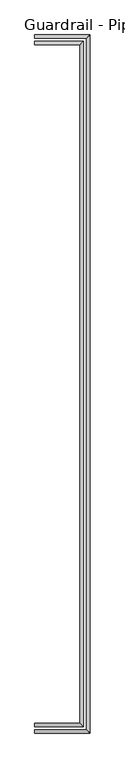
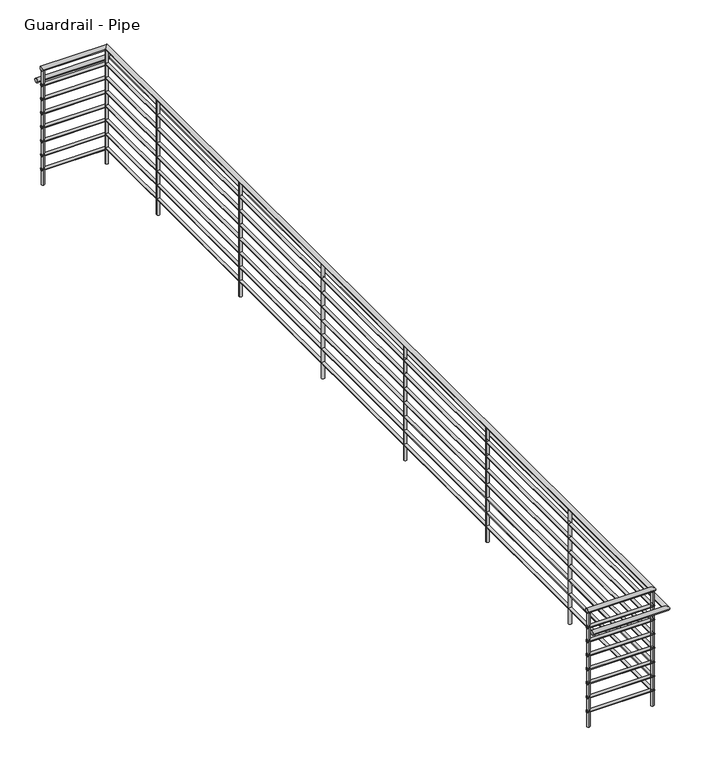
"""IFC4 building model written with IfcOpenShell, lengths in millimetres: railing geometry, Guardrail - Pipe."""

from ifc_helpers import new_model, si_unit, point, frame, frame_2d, origin, place, context, project, spatial, circle_curve, ellipse_curve, trimmed, segment, composite_curve, outline, extrude, source, transform, mapped, element, save
from ifc_brep_helpers import plane_surface, cylinder_surface, advanced_brep


def guardrail_pipe_9d1b1329(model_context):
    return source(origin(), model_context, "Body", "SolidModel", [
        advanced_brep(
        [(13389.3313551, 10867.95, 4705.35), (13389.3313551, 10906.05, 4705.35), (13967.1813551, 10867.95, 4705.35), (13929.0813551, 10906.05, 4705.35), (13967.1813551, 18983.25, 4705.35), (13929.0813551, 18945.15, 4705.35), (13389.3313551, 18983.25, 4705.35), (13389.3313551, 18945.15, 4705.35)],
        [
            (0, 1, circle_curve(frame((13389.3313551, 10887.0, 4705.35), z_axis=(-1.0, 0.0, 0.0), x_axis=(0.0, 1.0, 0.0)), 19.05)),
            (1, 0, circle_curve(frame((13389.3313551, 10887.0, 4705.35), z_axis=(-1.0, 0.0, 0.0), x_axis=(0.0, 1.0, 0.0)), 19.05)),
            (0, 2),
            (2, 3, ellipse_curve(frame((13948.1313551, 10887.0, 4705.35), z_axis=(-0.7071067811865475, -0.7071067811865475, 0.0), x_axis=(-0.7071067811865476, 0.7071067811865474, 0.0)), 26.9407684, 19.05)),
            (3, 1),
            (3, 2, ellipse_curve(frame((13948.1313551, 10887.0, 4705.35), z_axis=(-0.7071067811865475, -0.7071067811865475, 0.0), x_axis=(-0.7071067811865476, 0.7071067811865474, 0.0)), 26.9407684, 19.05)),
            (2, 4),
            (4, 5, ellipse_curve(frame((13948.1313551, 18964.2, 4705.35), z_axis=(0.7071067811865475, -0.7071067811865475, 0.0), x_axis=(-0.7071067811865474, -0.7071067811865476, 0.0)), 26.9407684, 19.05)),
            (5, 3),
            (5, 4, ellipse_curve(frame((13948.1313551, 18964.2, 4705.35), z_axis=(0.7071067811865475, -0.7071067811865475, 0.0), x_axis=(-0.7071067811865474, -0.7071067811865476, 0.0)), 26.9407684, 19.05)),
            (6, 7, circle_curve(frame((13389.3313551, 18964.2, 4705.35), z_axis=(-1.0, 0.0, 0.0), x_axis=(0.0, -1.0, 0.0)), 19.05)),
            (7, 6, circle_curve(frame((13389.3313551, 18964.2, 4705.35), z_axis=(-1.0, 0.0, 0.0), x_axis=(0.0, -1.0, 0.0)), 19.05)),
            (4, 6),
            (7, 5),
        ],
        [
            plane_surface(frame((13389.3313551, 10887.0, 4724.4), z_axis=(-1.0, 0.0, 0.0), x_axis=(0.0, 1.0, 0.0))),
            cylinder_surface(frame((13389.3313551, 10887.0, 4705.35), z_axis=(-1.0, 0.0, 0.0), x_axis=(0.0, 1.0, 0.0)), 19.05),
            cylinder_surface(frame((13948.1313551, 10887.0, 4705.35), z_axis=(0.0, -1.0, 0.0), x_axis=(-1.0, 0.0, 0.0)), 19.05),
            plane_surface(frame((13389.3313551, 18964.2, 4724.4), z_axis=(-1.0, 0.0, 0.0), x_axis=(0.0, -1.0, 0.0))),
            cylinder_surface(frame((13948.1313551, 18964.2, 4705.35), z_axis=(1.0, 0.0, 0.0), x_axis=(0.0, -1.0, 0.0)), 19.05),
        ],
        [
            (0, [[1, 2]]),
            (1, [[-1, 3, 4, 5]]),
            (1, [[-2, -5, 6, -3]]),
            (2, [[-4, 7, 8, 9]]),
            (2, [[-6, -9, 10, -7]]),
            (3, [[11, 12]]),
            (4, [[-8, 13, -12, 14]]),
            (4, [[-10, -14, -11, -13]]),
        ],
    ),
        advanced_brep(
        [(13389.3313551, 10874.3, 4559.3), (13389.3313551, 10899.7, 4559.3), (13960.8313551, 10874.3, 4559.3), (13935.4313551, 10899.7, 4559.3), (13960.8313551, 18976.9, 4559.3), (13935.4313551, 18951.5, 4559.3), (13389.3313551, 18976.9, 4559.3), (13389.3313551, 18951.5, 4559.3)],
        [
            (0, 1, circle_curve(frame((13389.3313551, 10887.0, 4559.3), z_axis=(-1.0, 0.0, 0.0), x_axis=(0.0, 1.0, 0.0)), 12.7)),
            (1, 0, circle_curve(frame((13389.3313551, 10887.0, 4559.3), z_axis=(-1.0, 0.0, 0.0), x_axis=(0.0, 1.0, 0.0)), 12.7)),
            (0, 2),
            (2, 3, ellipse_curve(frame((13948.1313551, 10887.0, 4559.3), z_axis=(-0.7071067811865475, -0.7071067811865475, 0.0), x_axis=(-0.7071067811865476, 0.7071067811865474, 0.0)), 17.9605122, 12.7)),
            (3, 1),
            (3, 2, ellipse_curve(frame((13948.1313551, 10887.0, 4559.3), z_axis=(-0.7071067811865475, -0.7071067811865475, 0.0), x_axis=(-0.7071067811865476, 0.7071067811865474, 0.0)), 17.9605122, 12.7)),
            (2, 4),
            (4, 5, ellipse_curve(frame((13948.1313551, 18964.2, 4559.3), z_axis=(0.7071067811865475, -0.7071067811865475, 0.0), x_axis=(-0.7071067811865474, -0.7071067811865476, 0.0)), 17.9605122, 12.7)),
            (5, 3),
            (5, 4, ellipse_curve(frame((13948.1313551, 18964.2, 4559.3), z_axis=(0.7071067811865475, -0.7071067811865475, 0.0), x_axis=(-0.7071067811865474, -0.7071067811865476, 0.0)), 17.9605122, 12.7)),
            (6, 7, circle_curve(frame((13389.3313551, 18964.2, 4559.3), z_axis=(-1.0, 0.0, 0.0), x_axis=(0.0, -1.0, 0.0)), 12.7)),
            (7, 6, circle_curve(frame((13389.3313551, 18964.2, 4559.3), z_axis=(-1.0, 0.0, 0.0), x_axis=(0.0, -1.0, 0.0)), 12.7)),
            (4, 6),
            (7, 5),
        ],
        [
            plane_surface(frame((13389.3313551, 10887.0, 4572.0), z_axis=(-1.0, 0.0, 0.0), x_axis=(0.0, 1.0, 0.0))),
            cylinder_surface(frame((13389.3313551, 10887.0, 4559.3), z_axis=(-1.0, 0.0, 0.0), x_axis=(0.0, 1.0, 0.0)), 12.7),
            cylinder_surface(frame((13948.1313551, 10887.0, 4559.3), z_axis=(0.0, -1.0, 0.0), x_axis=(-1.0, 0.0, 0.0)), 12.7),
            plane_surface(frame((13389.3313551, 18964.2, 4572.0), z_axis=(-1.0, 0.0, 0.0), x_axis=(0.0, -1.0, 0.0))),
            cylinder_surface(frame((13948.1313551, 18964.2, 4559.3), z_axis=(1.0, 0.0, 0.0), x_axis=(0.0, -1.0, 0.0)), 12.7),
        ],
        [
            (0, [[1, 2]]),
            (1, [[-1, 3, 4, 5]]),
            (1, [[-2, -5, 6, -3]]),
            (2, [[-4, 7, 8, 9]]),
            (2, [[-6, -9, 10, -7]]),
            (3, [[11, 12]]),
            (4, [[-8, 13, -12, 14]]),
            (4, [[-10, -14, -11, -13]]),
        ],
    ),
        advanced_brep(
        [(13389.3313551, 10791.75, 4552.95), (13389.3313551, 10829.85, 4552.95), (14043.3813551, 10791.75, 4552.95), (14005.2813551, 10829.85, 4552.95), (14043.3813551, 19059.45, 4552.95), (14005.2813551, 19021.35, 4552.95), (13389.3313551, 19059.45, 4552.95), (13389.3313551, 19021.35, 4552.95)],
        [
            (0, 1, circle_curve(frame((13389.3313551, 10810.8, 4552.95), z_axis=(-1.0, 0.0, 0.0), x_axis=(0.0, 1.0, 0.0)), 19.05)),
            (1, 0, circle_curve(frame((13389.3313551, 10810.8, 4552.95), z_axis=(-1.0, 0.0, 0.0), x_axis=(0.0, 1.0, 0.0)), 19.05)),
            (0, 2),
            (2, 3, ellipse_curve(frame((14024.3313551, 10810.8, 4552.95), z_axis=(-0.7071067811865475, -0.7071067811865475, 0.0), x_axis=(-0.7071067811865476, 0.7071067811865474, 0.0)), 26.9407684, 19.05)),
            (3, 1),
            (3, 2, ellipse_curve(frame((14024.3313551, 10810.8, 4552.95), z_axis=(-0.7071067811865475, -0.7071067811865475, 0.0), x_axis=(-0.7071067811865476, 0.7071067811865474, 0.0)), 26.9407684, 19.05)),
            (2, 4),
            (4, 5, ellipse_curve(frame((14024.3313551, 19040.4, 4552.95), z_axis=(0.7071067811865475, -0.7071067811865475, 0.0), x_axis=(-0.7071067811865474, -0.7071067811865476, 0.0)), 26.9407684, 19.05)),
            (5, 3),
            (5, 4, ellipse_curve(frame((14024.3313551, 19040.4, 4552.95), z_axis=(0.7071067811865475, -0.7071067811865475, 0.0), x_axis=(-0.7071067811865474, -0.7071067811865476, 0.0)), 26.9407684, 19.05)),
            (6, 7, circle_curve(frame((13389.3313551, 19040.4, 4552.95), z_axis=(-1.0, 0.0, 0.0), x_axis=(0.0, -1.0, 0.0)), 19.05)),
            (7, 6, circle_curve(frame((13389.3313551, 19040.4, 4552.95), z_axis=(-1.0, 0.0, 0.0), x_axis=(0.0, -1.0, 0.0)), 19.05)),
            (4, 6),
            (7, 5),
        ],
        [
            plane_surface(frame((13389.3313551, 10810.8, 4572.0), z_axis=(-1.0, 0.0, 0.0), x_axis=(0.0, 1.0, 0.0))),
            cylinder_surface(frame((13389.3313551, 10810.8, 4552.95), z_axis=(-1.0, 0.0, 0.0), x_axis=(0.0, 1.0, 0.0)), 19.05),
            cylinder_surface(frame((14024.3313551, 10810.8, 4552.95), z_axis=(0.0, -1.0, 0.0), x_axis=(-1.0, 0.0, 0.0)), 19.05),
            plane_surface(frame((13389.3313551, 19040.4, 4572.0), z_axis=(-1.0, 0.0, 0.0), x_axis=(0.0, -1.0, 0.0))),
            cylinder_surface(frame((14024.3313551, 19040.4, 4552.95), z_axis=(1.0, 0.0, 0.0), x_axis=(0.0, -1.0, 0.0)), 19.05),
        ],
        [
            (0, [[1, 2]]),
            (1, [[-1, 3, 4, 5]]),
            (1, [[-2, -5, 6, -3]]),
            (2, [[-4, 7, 8, 9]]),
            (2, [[-6, -9, 10, -7]]),
            (3, [[11, 12]]),
            (4, [[-8, 13, -12, 14]]),
            (4, [[-10, -14, -11, -13]]),
        ],
    ),
        advanced_brep(
        [(13389.3313551, 10874.3, 4432.3), (13389.3313551, 10899.7, 4432.3), (13960.8313551, 10874.3, 4432.3), (13935.4313551, 10899.7, 4432.3), (13960.8313551, 18976.9, 4432.3), (13935.4313551, 18951.5, 4432.3), (13389.3313551, 18976.9, 4432.3), (13389.3313551, 18951.5, 4432.3)],
        [
            (0, 1, circle_curve(frame((13389.3313551, 10887.0, 4432.3), z_axis=(-1.0, 0.0, 0.0), x_axis=(0.0, 1.0, 0.0)), 12.7)),
            (1, 0, circle_curve(frame((13389.3313551, 10887.0, 4432.3), z_axis=(-1.0, 0.0, 0.0), x_axis=(0.0, 1.0, 0.0)), 12.7)),
            (0, 2),
            (2, 3, ellipse_curve(frame((13948.1313551, 10887.0, 4432.3), z_axis=(-0.7071067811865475, -0.7071067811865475, 0.0), x_axis=(-0.7071067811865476, 0.7071067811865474, 0.0)), 17.9605122, 12.7)),
            (3, 1),
            (3, 2, ellipse_curve(frame((13948.1313551, 10887.0, 4432.3), z_axis=(-0.7071067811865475, -0.7071067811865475, 0.0), x_axis=(-0.7071067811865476, 0.7071067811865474, 0.0)), 17.9605122, 12.7)),
            (2, 4),
            (4, 5, ellipse_curve(frame((13948.1313551, 18964.2, 4432.3), z_axis=(0.7071067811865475, -0.7071067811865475, 0.0), x_axis=(-0.7071067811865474, -0.7071067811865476, 0.0)), 17.9605122, 12.7)),
            (5, 3),
            (5, 4, ellipse_curve(frame((13948.1313551, 18964.2, 4432.3), z_axis=(0.7071067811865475, -0.7071067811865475, 0.0), x_axis=(-0.7071067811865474, -0.7071067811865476, 0.0)), 17.9605122, 12.7)),
            (6, 7, circle_curve(frame((13389.3313551, 18964.2, 4432.3), z_axis=(-1.0, 0.0, 0.0), x_axis=(0.0, -1.0, 0.0)), 12.7)),
            (7, 6, circle_curve(frame((13389.3313551, 18964.2, 4432.3), z_axis=(-1.0, 0.0, 0.0), x_axis=(0.0, -1.0, 0.0)), 12.7)),
            (4, 6),
            (7, 5),
        ],
        [
            plane_surface(frame((13389.3313551, 10887.0, 4445.0), z_axis=(-1.0, 0.0, 0.0), x_axis=(0.0, 1.0, 0.0))),
            cylinder_surface(frame((13389.3313551, 10887.0, 4432.3), z_axis=(-1.0, 0.0, 0.0), x_axis=(0.0, 1.0, 0.0)), 12.7),
            cylinder_surface(frame((13948.1313551, 10887.0, 4432.3), z_axis=(0.0, -1.0, 0.0), x_axis=(-1.0, 0.0, 0.0)), 12.7),
            plane_surface(frame((13389.3313551, 18964.2, 4445.0), z_axis=(-1.0, 0.0, 0.0), x_axis=(0.0, -1.0, 0.0))),
            cylinder_surface(frame((13948.1313551, 18964.2, 4432.3), z_axis=(1.0, 0.0, 0.0), x_axis=(0.0, -1.0, 0.0)), 12.7),
        ],
        [
            (0, [[1, 2]]),
            (1, [[-1, 3, 4, 5]]),
            (1, [[-2, -5, 6, -3]]),
            (2, [[-4, 7, 8, 9]]),
            (2, [[-6, -9, 10, -7]]),
            (3, [[11, 12]]),
            (4, [[-8, 13, -12, 14]]),
            (4, [[-10, -14, -11, -13]]),
        ],
    ),
        advanced_brep(
        [(13389.3313551, 10874.3, 4305.3), (13389.3313551, 10899.7, 4305.3), (13960.8313551, 10874.3, 4305.3), (13935.4313551, 10899.7, 4305.3), (13960.8313551, 18976.9, 4305.3), (13935.4313551, 18951.5, 4305.3), (13389.3313551, 18976.9, 4305.3), (13389.3313551, 18951.5, 4305.3)],
        [
            (0, 1, circle_curve(frame((13389.3313551, 10887.0, 4305.3), z_axis=(-1.0, 0.0, 0.0), x_axis=(0.0, 1.0, 0.0)), 12.7)),
            (1, 0, circle_curve(frame((13389.3313551, 10887.0, 4305.3), z_axis=(-1.0, 0.0, 0.0), x_axis=(0.0, 1.0, 0.0)), 12.7)),
            (0, 2),
            (2, 3, ellipse_curve(frame((13948.1313551, 10887.0, 4305.3), z_axis=(-0.7071067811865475, -0.7071067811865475, 0.0), x_axis=(-0.7071067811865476, 0.7071067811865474, 0.0)), 17.9605122, 12.7)),
            (3, 1),
            (3, 2, ellipse_curve(frame((13948.1313551, 10887.0, 4305.3), z_axis=(-0.7071067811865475, -0.7071067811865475, 0.0), x_axis=(-0.7071067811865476, 0.7071067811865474, 0.0)), 17.9605122, 12.7)),
            (2, 4),
            (4, 5, ellipse_curve(frame((13948.1313551, 18964.2, 4305.3), z_axis=(0.7071067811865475, -0.7071067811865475, 0.0), x_axis=(-0.7071067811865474, -0.7071067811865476, 0.0)), 17.9605122, 12.7)),
            (5, 3),
            (5, 4, ellipse_curve(frame((13948.1313551, 18964.2, 4305.3), z_axis=(0.7071067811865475, -0.7071067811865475, 0.0), x_axis=(-0.7071067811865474, -0.7071067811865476, 0.0)), 17.9605122, 12.7)),
            (6, 7, circle_curve(frame((13389.3313551, 18964.2, 4305.3), z_axis=(-1.0, 0.0, 0.0), x_axis=(0.0, -1.0, 0.0)), 12.7)),
            (7, 6, circle_curve(frame((13389.3313551, 18964.2, 4305.3), z_axis=(-1.0, 0.0, 0.0), x_axis=(0.0, -1.0, 0.0)), 12.7)),
            (4, 6),
            (7, 5),
        ],
        [
            plane_surface(frame((13389.3313551, 10887.0, 4318.0), z_axis=(-1.0, 0.0, 0.0), x_axis=(0.0, 1.0, 0.0))),
            cylinder_surface(frame((13389.3313551, 10887.0, 4305.3), z_axis=(-1.0, 0.0, 0.0), x_axis=(0.0, 1.0, 0.0)), 12.7),
            cylinder_surface(frame((13948.1313551, 10887.0, 4305.3), z_axis=(0.0, -1.0, 0.0), x_axis=(-1.0, 0.0, 0.0)), 12.7),
            plane_surface(frame((13389.3313551, 18964.2, 4318.0), z_axis=(-1.0, 0.0, 0.0), x_axis=(0.0, -1.0, 0.0))),
            cylinder_surface(frame((13948.1313551, 18964.2, 4305.3), z_axis=(1.0, 0.0, 0.0), x_axis=(0.0, -1.0, 0.0)), 12.7),
        ],
        [
            (0, [[1, 2]]),
            (1, [[-1, 3, 4, 5]]),
            (1, [[-2, -5, 6, -3]]),
            (2, [[-4, 7, 8, 9]]),
            (2, [[-6, -9, 10, -7]]),
            (3, [[11, 12]]),
            (4, [[-8, 13, -12, 14]]),
            (4, [[-10, -14, -11, -13]]),
        ],
    ),
        advanced_brep(
        [(13389.3313551, 10874.3, 4178.3), (13389.3313551, 10899.7, 4178.3), (13960.8313551, 10874.3, 4178.3), (13935.4313551, 10899.7, 4178.3), (13960.8313551, 18976.9, 4178.3), (13935.4313551, 18951.5, 4178.3), (13389.3313551, 18976.9, 4178.3), (13389.3313551, 18951.5, 4178.3)],
        [
            (0, 1, circle_curve(frame((13389.3313551, 10887.0, 4178.3), z_axis=(-1.0, 0.0, 0.0), x_axis=(0.0, 1.0, 0.0)), 12.7)),
            (1, 0, circle_curve(frame((13389.3313551, 10887.0, 4178.3), z_axis=(-1.0, 0.0, 0.0), x_axis=(0.0, 1.0, 0.0)), 12.7)),
            (0, 2),
            (2, 3, ellipse_curve(frame((13948.1313551, 10887.0, 4178.3), z_axis=(-0.7071067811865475, -0.7071067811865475, 0.0), x_axis=(-0.7071067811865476, 0.7071067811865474, 0.0)), 17.9605122, 12.7)),
            (3, 1),
            (3, 2, ellipse_curve(frame((13948.1313551, 10887.0, 4178.3), z_axis=(-0.7071067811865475, -0.7071067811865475, 0.0), x_axis=(-0.7071067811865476, 0.7071067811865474, 0.0)), 17.9605122, 12.7)),
            (2, 4),
            (4, 5, ellipse_curve(frame((13948.1313551, 18964.2, 4178.3), z_axis=(0.7071067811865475, -0.7071067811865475, 0.0), x_axis=(-0.7071067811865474, -0.7071067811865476, 0.0)), 17.9605122, 12.7)),
            (5, 3),
            (5, 4, ellipse_curve(frame((13948.1313551, 18964.2, 4178.3), z_axis=(0.7071067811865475, -0.7071067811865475, 0.0), x_axis=(-0.7071067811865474, -0.7071067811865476, 0.0)), 17.9605122, 12.7)),
            (6, 7, circle_curve(frame((13389.3313551, 18964.2, 4178.3), z_axis=(-1.0, 0.0, 0.0), x_axis=(0.0, -1.0, 0.0)), 12.7)),
            (7, 6, circle_curve(frame((13389.3313551, 18964.2, 4178.3), z_axis=(-1.0, 0.0, 0.0), x_axis=(0.0, -1.0, 0.0)), 12.7)),
            (4, 6),
            (7, 5),
        ],
        [
            plane_surface(frame((13389.3313551, 10887.0, 4191.0), z_axis=(-1.0, 0.0, 0.0), x_axis=(0.0, 1.0, 0.0))),
            cylinder_surface(frame((13389.3313551, 10887.0, 4178.3), z_axis=(-1.0, 0.0, 0.0), x_axis=(0.0, 1.0, 0.0)), 12.7),
            cylinder_surface(frame((13948.1313551, 10887.0, 4178.3), z_axis=(0.0, -1.0, 0.0), x_axis=(-1.0, 0.0, 0.0)), 12.7),
            plane_surface(frame((13389.3313551, 18964.2, 4191.0), z_axis=(-1.0, 0.0, 0.0), x_axis=(0.0, -1.0, 0.0))),
            cylinder_surface(frame((13948.1313551, 18964.2, 4178.3), z_axis=(1.0, 0.0, 0.0), x_axis=(0.0, -1.0, 0.0)), 12.7),
        ],
        [
            (0, [[1, 2]]),
            (1, [[-1, 3, 4, 5]]),
            (1, [[-2, -5, 6, -3]]),
            (2, [[-4, 7, 8, 9]]),
            (2, [[-6, -9, 10, -7]]),
            (3, [[11, 12]]),
            (4, [[-8, 13, -12, 14]]),
            (4, [[-10, -14, -11, -13]]),
        ],
    ),
        advanced_brep(
        [(13389.3313551, 10874.3, 4051.3), (13389.3313551, 10899.7, 4051.3), (13960.8313551, 10874.3, 4051.3), (13935.4313551, 10899.7, 4051.3), (13960.8313551, 18976.9, 4051.3), (13935.4313551, 18951.5, 4051.3), (13389.3313551, 18976.9, 4051.3), (13389.3313551, 18951.5, 4051.3)],
        [
            (0, 1, circle_curve(frame((13389.3313551, 10887.0, 4051.3), z_axis=(-1.0, 0.0, 0.0), x_axis=(0.0, 1.0, 0.0)), 12.7)),
            (1, 0, circle_curve(frame((13389.3313551, 10887.0, 4051.3), z_axis=(-1.0, 0.0, 0.0), x_axis=(0.0, 1.0, 0.0)), 12.7)),
            (0, 2),
            (2, 3, ellipse_curve(frame((13948.1313551, 10887.0, 4051.3), z_axis=(-0.7071067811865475, -0.7071067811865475, 0.0), x_axis=(-0.7071067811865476, 0.7071067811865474, 0.0)), 17.9605122, 12.7)),
            (3, 1),
            (3, 2, ellipse_curve(frame((13948.1313551, 10887.0, 4051.3), z_axis=(-0.7071067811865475, -0.7071067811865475, 0.0), x_axis=(-0.7071067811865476, 0.7071067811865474, 0.0)), 17.9605122, 12.7)),
            (2, 4),
            (4, 5, ellipse_curve(frame((13948.1313551, 18964.2, 4051.3), z_axis=(0.7071067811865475, -0.7071067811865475, 0.0), x_axis=(-0.7071067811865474, -0.7071067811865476, 0.0)), 17.9605122, 12.7)),
            (5, 3),
            (5, 4, ellipse_curve(frame((13948.1313551, 18964.2, 4051.3), z_axis=(0.7071067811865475, -0.7071067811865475, 0.0), x_axis=(-0.7071067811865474, -0.7071067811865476, 0.0)), 17.9605122, 12.7)),
            (6, 7, circle_curve(frame((13389.3313551, 18964.2, 4051.3), z_axis=(-1.0, 0.0, 0.0), x_axis=(0.0, -1.0, 0.0)), 12.7)),
            (7, 6, circle_curve(frame((13389.3313551, 18964.2, 4051.3), z_axis=(-1.0, 0.0, 0.0), x_axis=(0.0, -1.0, 0.0)), 12.7)),
            (4, 6),
            (7, 5),
        ],
        [
            plane_surface(frame((13389.3313551, 10887.0, 4064.0), z_axis=(-1.0, 0.0, 0.0), x_axis=(0.0, 1.0, 0.0))),
            cylinder_surface(frame((13389.3313551, 10887.0, 4051.3), z_axis=(-1.0, 0.0, 0.0), x_axis=(0.0, 1.0, 0.0)), 12.7),
            cylinder_surface(frame((13948.1313551, 10887.0, 4051.3), z_axis=(0.0, -1.0, 0.0), x_axis=(-1.0, 0.0, 0.0)), 12.7),
            plane_surface(frame((13389.3313551, 18964.2, 4064.0), z_axis=(-1.0, 0.0, 0.0), x_axis=(0.0, -1.0, 0.0))),
            cylinder_surface(frame((13948.1313551, 18964.2, 4051.3), z_axis=(1.0, 0.0, 0.0), x_axis=(0.0, -1.0, 0.0)), 12.7),
        ],
        [
            (0, [[1, 2]]),
            (1, [[-1, 3, 4, 5]]),
            (1, [[-2, -5, 6, -3]]),
            (2, [[-4, 7, 8, 9]]),
            (2, [[-6, -9, 10, -7]]),
            (3, [[11, 12]]),
            (4, [[-8, 13, -12, 14]]),
            (4, [[-10, -14, -11, -13]]),
        ],
    ),
        advanced_brep(
        [(13389.3313551, 10874.3, 3924.3), (13389.3313551, 10899.7, 3924.3), (13960.8313551, 10874.3, 3924.3), (13935.4313551, 10899.7, 3924.3), (13960.8313551, 18976.9, 3924.3), (13935.4313551, 18951.5, 3924.3), (13389.3313551, 18976.9, 3924.3), (13389.3313551, 18951.5, 3924.3)],
        [
            (0, 1, circle_curve(frame((13389.3313551, 10887.0, 3924.3), z_axis=(-1.0, 0.0, 0.0), x_axis=(0.0, 1.0, 0.0)), 12.7)),
            (1, 0, circle_curve(frame((13389.3313551, 10887.0, 3924.3), z_axis=(-1.0, 0.0, 0.0), x_axis=(0.0, 1.0, 0.0)), 12.7)),
            (0, 2),
            (2, 3, ellipse_curve(frame((13948.1313551, 10887.0, 3924.3), z_axis=(-0.7071067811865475, -0.7071067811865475, 0.0), x_axis=(-0.7071067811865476, 0.7071067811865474, 0.0)), 17.9605122, 12.7)),
            (3, 1),
            (3, 2, ellipse_curve(frame((13948.1313551, 10887.0, 3924.3), z_axis=(-0.7071067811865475, -0.7071067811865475, 0.0), x_axis=(-0.7071067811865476, 0.7071067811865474, 0.0)), 17.9605122, 12.7)),
            (2, 4),
            (4, 5, ellipse_curve(frame((13948.1313551, 18964.2, 3924.3), z_axis=(0.7071067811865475, -0.7071067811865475, 0.0), x_axis=(-0.7071067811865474, -0.7071067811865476, 0.0)), 17.9605122, 12.7)),
            (5, 3),
            (5, 4, ellipse_curve(frame((13948.1313551, 18964.2, 3924.3), z_axis=(0.7071067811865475, -0.7071067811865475, 0.0), x_axis=(-0.7071067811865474, -0.7071067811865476, 0.0)), 17.9605122, 12.7)),
            (6, 7, circle_curve(frame((13389.3313551, 18964.2, 3924.3), z_axis=(-1.0, 0.0, 0.0), x_axis=(0.0, -1.0, 0.0)), 12.7)),
            (7, 6, circle_curve(frame((13389.3313551, 18964.2, 3924.3), z_axis=(-1.0, 0.0, 0.0), x_axis=(0.0, -1.0, 0.0)), 12.7)),
            (4, 6),
            (7, 5),
        ],
        [
            plane_surface(frame((13389.3313551, 10887.0, 3937.0), z_axis=(-1.0, 0.0, 0.0), x_axis=(0.0, 1.0, 0.0))),
            cylinder_surface(frame((13389.3313551, 10887.0, 3924.3), z_axis=(-1.0, 0.0, 0.0), x_axis=(0.0, 1.0, 0.0)), 12.7),
            cylinder_surface(frame((13948.1313551, 10887.0, 3924.3), z_axis=(0.0, -1.0, 0.0), x_axis=(-1.0, 0.0, 0.0)), 12.7),
            plane_surface(frame((13389.3313551, 18964.2, 3937.0), z_axis=(-1.0, 0.0, 0.0), x_axis=(0.0, -1.0, 0.0))),
            cylinder_surface(frame((13948.1313551, 18964.2, 3924.3), z_axis=(1.0, 0.0, 0.0), x_axis=(0.0, -1.0, 0.0)), 12.7),
        ],
        [
            (0, [[1, 2]]),
            (1, [[-1, 3, 4, 5]]),
            (1, [[-2, -5, 6, -3]]),
            (2, [[-4, 7, 8, 9]]),
            (2, [[-6, -9, 10, -7]]),
            (3, [[11, 12]]),
            (4, [[-8, 13, -12, 14]]),
            (4, [[-10, -14, -11, -13]]),
        ],
    ),
        advanced_brep(
        [(13389.3313551, 10874.3, 3797.3), (13389.3313551, 10899.7, 3797.3), (13960.8313551, 10874.3, 3797.3), (13935.4313551, 10899.7, 3797.3), (13960.8313551, 18976.9, 3797.3), (13935.4313551, 18951.5, 3797.3), (13389.3313551, 18976.9, 3797.3), (13389.3313551, 18951.5, 3797.3)],
        [
            (0, 1, circle_curve(frame((13389.3313551, 10887.0, 3797.3), z_axis=(-1.0, 0.0, 0.0), x_axis=(0.0, 1.0, 0.0)), 12.7)),
            (1, 0, circle_curve(frame((13389.3313551, 10887.0, 3797.3), z_axis=(-1.0, 0.0, 0.0), x_axis=(0.0, 1.0, 0.0)), 12.7)),
            (0, 2),
            (2, 3, ellipse_curve(frame((13948.1313551, 10887.0, 3797.3), z_axis=(-0.7071067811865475, -0.7071067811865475, 0.0), x_axis=(-0.7071067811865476, 0.7071067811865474, 0.0)), 17.9605122, 12.7)),
            (3, 1),
            (3, 2, ellipse_curve(frame((13948.1313551, 10887.0, 3797.3), z_axis=(-0.7071067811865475, -0.7071067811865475, 0.0), x_axis=(-0.7071067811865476, 0.7071067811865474, 0.0)), 17.9605122, 12.7)),
            (2, 4),
            (4, 5, ellipse_curve(frame((13948.1313551, 18964.2, 3797.3), z_axis=(0.7071067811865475, -0.7071067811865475, 0.0), x_axis=(-0.7071067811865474, -0.7071067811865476, 0.0)), 17.9605122, 12.7)),
            (5, 3),
            (5, 4, ellipse_curve(frame((13948.1313551, 18964.2, 3797.3), z_axis=(0.7071067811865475, -0.7071067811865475, 0.0), x_axis=(-0.7071067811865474, -0.7071067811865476, 0.0)), 17.9605122, 12.7)),
            (6, 7, circle_curve(frame((13389.3313551, 18964.2, 3797.3), z_axis=(-1.0, 0.0, 0.0), x_axis=(0.0, -1.0, 0.0)), 12.7)),
            (7, 6, circle_curve(frame((13389.3313551, 18964.2, 3797.3), z_axis=(-1.0, 0.0, 0.0), x_axis=(0.0, -1.0, 0.0)), 12.7)),
            (4, 6),
            (7, 5),
        ],
        [
            plane_surface(frame((13389.3313551, 10887.0, 3810.0), z_axis=(-1.0, 0.0, 0.0), x_axis=(0.0, 1.0, 0.0))),
            cylinder_surface(frame((13389.3313551, 10887.0, 3797.3), z_axis=(-1.0, 0.0, 0.0), x_axis=(0.0, 1.0, 0.0)), 12.7),
            cylinder_surface(frame((13948.1313551, 10887.0, 3797.3), z_axis=(0.0, -1.0, 0.0), x_axis=(-1.0, 0.0, 0.0)), 12.7),
            plane_surface(frame((13389.3313551, 18964.2, 3810.0), z_axis=(-1.0, 0.0, 0.0), x_axis=(0.0, -1.0, 0.0))),
            cylinder_surface(frame((13948.1313551, 18964.2, 3797.3), z_axis=(1.0, 0.0, 0.0), x_axis=(0.0, -1.0, 0.0)), 12.7),
        ],
        [
            (0, [[1, 2]]),
            (1, [[-1, 3, 4, 5]]),
            (1, [[-2, -5, 6, -3]]),
            (2, [[-4, 7, 8, 9]]),
            (2, [[-6, -9, 10, -7]]),
            (3, [[11, 12]]),
            (4, [[-8, 13, -12, 14]]),
            (4, [[-10, -14, -11, -13]]),
        ],
    ),
        extrude(outline(composite_curve([segment(trimmed(circle_curve(frame_2d((13948.1313551, 18202.2)), 12.7), [point((13960.8313551, 18202.2))], [point((13935.4313551, 18202.2))], False, "CARTESIAN"), True, "CONTINUOUS"), segment(trimmed(circle_curve(frame_2d((13948.1313551, 18202.2)), 12.7), [point((13935.4313551, 18202.2))], [point((13960.8313551, 18202.2))], False, "CARTESIAN"), True, "CONTINUOUS")], self_intersect=False)), frame((0.0, 0.0, 3657.6), z_axis=(0.0, 0.0, 1.0), x_axis=(1.0, 0.0, 0.0)), (0.0, 0.0, 1.0), 1028.7),
        extrude(outline(composite_curve([segment(trimmed(circle_curve(frame_2d((13948.1313551, 16983.0)), 12.7), [point((13960.8313551, 16983.0))], [point((13935.4313551, 16983.0))], False, "CARTESIAN"), True, "CONTINUOUS"), segment(trimmed(circle_curve(frame_2d((13948.1313551, 16983.0)), 12.7), [point((13935.4313551, 16983.0))], [point((13960.8313551, 16983.0))], False, "CARTESIAN"), True, "CONTINUOUS")], self_intersect=False)), frame((0.0, 0.0, 3657.6), z_axis=(0.0, 0.0, 1.0), x_axis=(1.0, 0.0, 0.0)), (0.0, 0.0, 1.0), 1028.7),
        extrude(outline(composite_curve([segment(trimmed(circle_curve(frame_2d((13948.1313551, 15763.8)), 12.7), [point((13960.8313551, 15763.8))], [point((13935.4313551, 15763.8))], False, "CARTESIAN"), True, "CONTINUOUS"), segment(trimmed(circle_curve(frame_2d((13948.1313551, 15763.8)), 12.7), [point((13935.4313551, 15763.8))], [point((13960.8313551, 15763.8))], False, "CARTESIAN"), True, "CONTINUOUS")], self_intersect=False)), frame((0.0, 0.0, 3657.6), z_axis=(0.0, 0.0, 1.0), x_axis=(1.0, 0.0, 0.0)), (0.0, 0.0, 1.0), 1028.7),
        extrude(outline(composite_curve([segment(trimmed(circle_curve(frame_2d((13948.1313551, 14544.6)), 12.7), [point((13960.8313551, 14544.6))], [point((13935.4313551, 14544.6))], False, "CARTESIAN"), True, "CONTINUOUS"), segment(trimmed(circle_curve(frame_2d((13948.1313551, 14544.6)), 12.7), [point((13935.4313551, 14544.6))], [point((13960.8313551, 14544.6))], False, "CARTESIAN"), True, "CONTINUOUS")], self_intersect=False)), frame((0.0, 0.0, 3657.6), z_axis=(0.0, 0.0, 1.0), x_axis=(1.0, 0.0, 0.0)), (0.0, 0.0, 1.0), 1028.7),
        extrude(outline(composite_curve([segment(trimmed(circle_curve(frame_2d((13948.1313551, 13325.4)), 12.7), [point((13960.8313551, 13325.4))], [point((13935.4313551, 13325.4))], False, "CARTESIAN"), True, "CONTINUOUS"), segment(trimmed(circle_curve(frame_2d((13948.1313551, 13325.4)), 12.7), [point((13935.4313551, 13325.4))], [point((13960.8313551, 13325.4))], False, "CARTESIAN"), True, "CONTINUOUS")], self_intersect=False)), frame((0.0, 0.0, 3657.6), z_axis=(0.0, 0.0, 1.0), x_axis=(1.0, 0.0, 0.0)), (0.0, 0.0, 1.0), 1028.7),
        extrude(outline(composite_curve([segment(trimmed(circle_curve(frame_2d((13948.1313551, 12106.2)), 12.7), [point((13960.8313551, 12106.2))], [point((13935.4313551, 12106.2))], False, "CARTESIAN"), True, "CONTINUOUS"), segment(trimmed(circle_curve(frame_2d((13948.1313551, 12106.2)), 12.7), [point((13935.4313551, 12106.2))], [point((13960.8313551, 12106.2))], False, "CARTESIAN"), True, "CONTINUOUS")], self_intersect=False)), frame((0.0, 0.0, 3657.6), z_axis=(0.0, 0.0, 1.0), x_axis=(1.0, 0.0, 0.0)), (0.0, 0.0, 1.0), 1028.7),
        extrude(outline(composite_curve([segment(trimmed(circle_curve(frame_2d((13948.1313551, 18964.2)), 12.7), [point((13960.8313551, 18964.2))], [point((13935.4313551, 18964.2))], False, "CARTESIAN"), True, "CONTINUOUS"), segment(trimmed(circle_curve(frame_2d((13948.1313551, 18964.2)), 12.7), [point((13935.4313551, 18964.2))], [point((13960.8313551, 18964.2))], False, "CARTESIAN"), True, "CONTINUOUS")], self_intersect=False)), frame((0.0, 0.0, 3657.6), z_axis=(0.0, 0.0, 1.0), x_axis=(1.0, 0.0, 0.0)), (0.0, 0.0, 1.0), 1028.7),
        extrude(outline(composite_curve([segment(trimmed(circle_curve(frame_2d((13948.1313551, 10887.0)), 12.7), [point((13948.1313551, 10874.3))], [point((13948.1313551, 10899.7))], False, "CARTESIAN"), True, "CONTINUOUS"), segment(trimmed(circle_curve(frame_2d((13948.1313551, 10887.0)), 12.7), [point((13948.1313551, 10899.7))], [point((13948.1313551, 10874.3))], False, "CARTESIAN"), True, "CONTINUOUS")], self_intersect=False)), frame((0.0, 0.0, 3657.6), z_axis=(0.0, 0.0, 1.0), x_axis=(1.0, 0.0, 0.0)), (0.0, 0.0, 1.0), 1028.7),
        extrude(outline(composite_curve([segment(trimmed(circle_curve(frame_2d((13402.0313551, 18964.2)), 12.7), [point((13402.0313551, 18976.9))], [point((13402.0313551, 18951.5))], False, "CARTESIAN"), True, "CONTINUOUS"), segment(trimmed(circle_curve(frame_2d((13402.0313551, 18964.2)), 12.7), [point((13402.0313551, 18951.5))], [point((13402.0313551, 18976.9))], False, "CARTESIAN"), True, "CONTINUOUS")], self_intersect=False)), frame((0.0, 0.0, 3657.6), z_axis=(0.0, 0.0, 1.0), x_axis=(1.0, 0.0, 0.0)), (0.0, 0.0, 1.0), 1028.7),
        extrude(outline(composite_curve([segment(trimmed(circle_curve(frame_2d((13402.0313551, 10887.0)), 12.7), [point((13402.0313551, 10874.3))], [point((13402.0313551, 10899.7))], False, "CARTESIAN"), True, "CONTINUOUS"), segment(trimmed(circle_curve(frame_2d((13402.0313551, 10887.0)), 12.7), [point((13402.0313551, 10899.7))], [point((13402.0313551, 10874.3))], False, "CARTESIAN"), True, "CONTINUOUS")], self_intersect=False)), frame((0.0, 0.0, 3657.6), z_axis=(0.0, 0.0, 1.0), x_axis=(1.0, 0.0, 0.0)), (0.0, 0.0, 1.0), 1028.7),
    ])


if __name__ == "__main__":
    model = new_model("IFC4")
    model_context = context("Model", 3, world=origin())
    ifc_project = project(units=[si_unit("LENGTHUNIT", "METRE", prefix="MILLI")], contexts=[model_context])
    site = spatial("IfcSite", under=ifc_project)
    building = spatial("IfcBuilding", under=site)
    placement = place(None, origin())
    guardrail_pipe_shape = guardrail_pipe_9d1b1329(model_context)
    element("IfcRailing", 1, ObjectType="Guardrail - Pipe", at=placement, inside=building, context=model_context, shape_type="MappedRepresentation", body=[
        mapped(guardrail_pipe_shape, transform((0.0, 0.0, 0.0), x_axis=(1.0, 0.0, 0.0), y_axis=(0.0, 1.0, 0.0), z_axis=(0.0, 0.0, 1.0))),
    ])
    save(model, "model.ifc")
